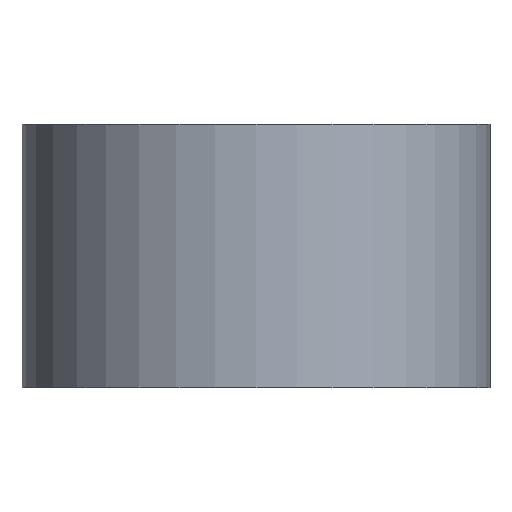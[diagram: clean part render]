
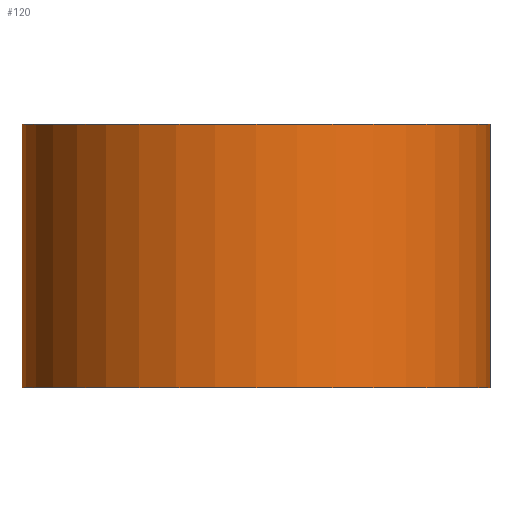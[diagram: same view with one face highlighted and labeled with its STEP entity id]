
A CAD part, front view. The second image highlights one B-rep face of the part: STEP entity #120.
In plain terms, the highlighted cylindrical face has radius 118 mm (diameter 236 mm), a partial arc.
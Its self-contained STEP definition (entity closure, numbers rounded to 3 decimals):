
#64=CARTESIAN_POINT('Axis2P3D Location',(0.,0.,66.5)) ;
#69=CARTESIAN_POINT('Line Origine',(118.,0.,66.5)) ;
#73=CARTESIAN_POINT('Vertex',(118.,0.,0.)) ;
#75=CARTESIAN_POINT('Vertex',(118.,0.,133.)) ;
#82=CARTESIAN_POINT('Vertex',(-118.,0.,0.)) ;
#85=CARTESIAN_POINT('Line Origine',(-118.,0.,66.5)) ;
#89=CARTESIAN_POINT('Vertex',(-118.,0.,133.)) ;
#104=CARTESIAN_POINT('Axis2P3D Location',(0.,0.,0.)) ;
#109=CARTESIAN_POINT('Axis2P3D Location',(0.,0.,133.)) ;
#65=DIRECTION('Axis2P3D Direction',(0.,0.,1.)) ;
#66=DIRECTION('Axis2P3D XDirection',(1.,0.,0.)) ;
#70=DIRECTION('Vector Direction',(0.,0.,1.)) ;
#86=DIRECTION('Vector Direction',(0.,0.,1.)) ;
#105=DIRECTION('Axis2P3D Direction',(0.,0.,1.)) ;
#110=DIRECTION('Axis2P3D Direction',(0.,0.,1.)) ;
#67=AXIS2_PLACEMENT_3D('Cylinder Axis2P3D',#64,#65,#66) ;
#106=AXIS2_PLACEMENT_3D('Circle Axis2P3D',#104,#105,$) ;
#111=AXIS2_PLACEMENT_3D('Circle Axis2P3D',#109,#110,$) ;
#115=ORIENTED_EDGE('',*,*,#91,.F.) ;
#116=ORIENTED_EDGE('',*,*,#108,.T.) ;
#117=ORIENTED_EDGE('',*,*,#77,.T.) ;
#118=ORIENTED_EDGE('',*,*,#113,.F.) ;
#71=VECTOR('Line Direction',#70,1.) ;
#87=VECTOR('Line Direction',#86,1.) ;
#120=ADVANCED_FACE('PartBody',(#119),#68,.T.) ;
#107=CIRCLE('generated circle',#106,118.) ;
#112=CIRCLE('generated circle',#111,118.) ;
#68=CYLINDRICAL_SURFACE('generated cylinder',#67,118.) ;
#77=EDGE_CURVE('',#74,#76,#72,.T.) ;
#91=EDGE_CURVE('',#83,#90,#88,.T.) ;
#108=EDGE_CURVE('',#83,#74,#107,.T.) ;
#113=EDGE_CURVE('',#90,#76,#112,.T.) ;
#114=EDGE_LOOP('',(#115,#116,#117,#118)) ;
#119=FACE_OUTER_BOUND('',#114,.T.) ;
#72=LINE('Line',#69,#71) ;
#88=LINE('Line',#85,#87) ;
#74=VERTEX_POINT('',#73) ;
#76=VERTEX_POINT('',#75) ;
#83=VERTEX_POINT('',#82) ;
#90=VERTEX_POINT('',#89) ;
